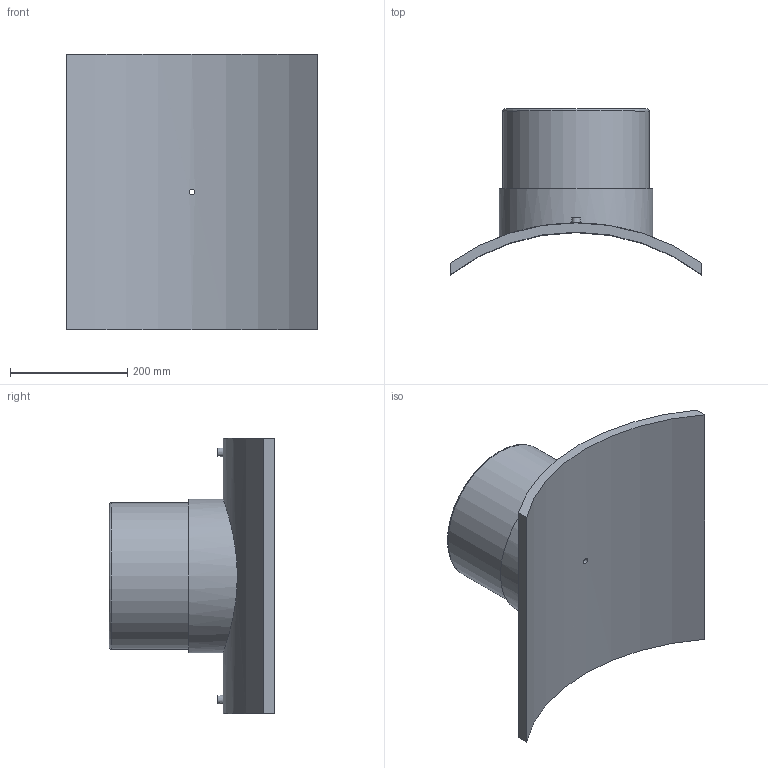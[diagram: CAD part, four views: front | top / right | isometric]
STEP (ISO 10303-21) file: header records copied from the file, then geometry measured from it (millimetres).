
FILE_DESCRIPTION(/* description */ ('PLASSON BRANCH SADDLE 710x250'),/* implementation_level */ '2;1');
FILE_NAME(/* name */ 'C:\Dropbox\KIMPROJECTS-Inventor 2019\99-16-3568-Processing\ElectroFusion Fittings\495803\stp\495803710250T.stp',/* time_stamp */ '2024-04-04T11:56:13+02:00',/* author */ ('KIM'),/* organization */ (''),/* preprocessor_version */ 'ST-DEVELOPER v17.2',/* originating_system */ 'Autodesk Inventor 2019',/* authorisation */ '');
FILE_SCHEMA (('AUTOMOTIVE_DESIGN { 1 0 10303 214 3 1 1 }'));
Length unit declared in the file: millimetre
Products named in the file (1): 495803710250T
Bounding box: 430 x 283.51 x 470 mm (x, y, z)
Volume: 7422579.2 mm3; surface area: 765546.5 mm2
Topology: 1 solids, 1 shells, 29 faces, 60 edges, 43 vertices
Faces by surface type: plane 13, cylinder 12, torus 2, cone 2
Full cylindrical faces by diameter (mm): 4 x2, 9.6 x1, 10 x2, 16 x1, 200 x1, 250 x1, 262.5 x1
Entity records: 1086 total; most frequent: CARTESIAN_POINT 400, DIRECTION 139, ORIENTED_EDGE 120, EDGE_CURVE 60, AXIS2_PLACEMENT_3D 60, VERTEX_POINT 43, EDGE_LOOP 41, CIRCLE 30
